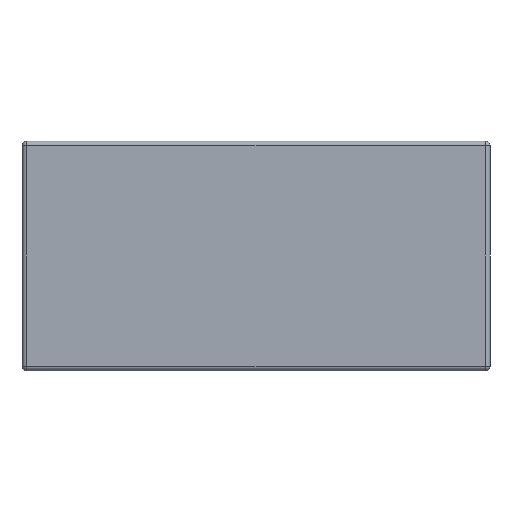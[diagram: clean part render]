
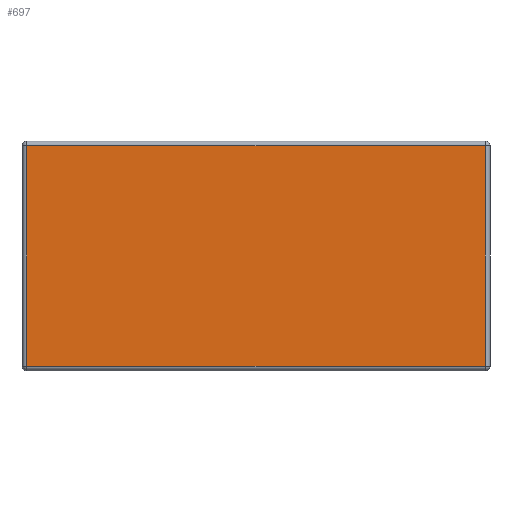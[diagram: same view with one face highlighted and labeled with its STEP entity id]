
A CAD part, front view. The second image highlights one B-rep face of the part: STEP entity #697.
In plain terms, the highlighted planar face has unit normal (0, -1, 0).
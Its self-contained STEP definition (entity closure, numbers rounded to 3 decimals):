
#30 = LINE ( 'NONE', #1537, #558 ) ;
#85 = CARTESIAN_POINT ( 'NONE',  ( 48.1, 0., 23.1 ) ) ;
#104 = PLANE ( 'NONE',  #106 ) ;
#106 = AXIS2_PLACEMENT_3D ( 'NONE', #1018, #1425, #236 ) ;
#137 = FACE_OUTER_BOUND ( 'NONE', #1343, .T. ) ;
#191 = CARTESIAN_POINT ( 'NONE',  ( 48.1, 0., -23.1 ) ) ;
#194 = CARTESIAN_POINT ( 'NONE',  ( -48.1, 0., -23.1 ) ) ;
#207 = ORIENTED_EDGE ( 'NONE', *, *, #1371, .T. ) ;
#236 = DIRECTION ( 'NONE',  ( 0., 0., -1. ) ) ;
#238 = LINE ( 'NONE', #1361, #731 ) ;
#242 = ORIENTED_EDGE ( 'NONE', *, *, #1375, .T. ) ;
#275 = VERTEX_POINT ( 'NONE', #458 ) ;
#325 = DIRECTION ( 'NONE',  ( 0., 0., 1. ) ) ;
#458 = CARTESIAN_POINT ( 'NONE',  ( -48.1, 0., 23.1 ) ) ;
#486 = CARTESIAN_POINT ( 'NONE',  ( -48.1, 0., 23.1 ) ) ;
#514 = ORIENTED_EDGE ( 'NONE', *, *, #1390, .T. ) ;
#524 = LINE ( 'NONE', #191, #991 ) ;
#532 = VERTEX_POINT ( 'NONE', #194 ) ;
#558 = VECTOR ( 'NONE', #646, 1000. ) ;
#613 = VECTOR ( 'NONE', #952, 1000. ) ;
#642 = DIRECTION ( 'NONE',  ( 1., 0., 0. ) ) ;
#646 = DIRECTION ( 'NONE',  ( 0., 0., -1. ) ) ;
#697 = ADVANCED_FACE ( 'NONE', ( #137 ), #104, .T. ) ;
#731 = VECTOR ( 'NONE', #325, 1000. ) ;
#901 = CARTESIAN_POINT ( 'NONE',  ( 48.1, 0., -23.1 ) ) ;
#952 = DIRECTION ( 'NONE',  ( -1., 0., 0. ) ) ;
#991 = VECTOR ( 'NONE', #642, 1000. ) ;
#1018 = CARTESIAN_POINT ( 'NONE',  ( 0., 0., 0. ) ) ;
#1019 = VERTEX_POINT ( 'NONE', #901 ) ;
#1032 = LINE ( 'NONE', #486, #613 ) ;
#1196 = VERTEX_POINT ( 'NONE', #85 ) ;
#1325 = ORIENTED_EDGE ( 'NONE', *, *, #1387, .T. ) ;
#1343 = EDGE_LOOP ( 'NONE', ( #207, #242, #1325, #514 ) ) ;
#1361 = CARTESIAN_POINT ( 'NONE',  ( 48.1, 0., 23.1 ) ) ;
#1371 = EDGE_CURVE ( 'NONE', #275, #532, #30, .T. ) ;
#1375 = EDGE_CURVE ( 'NONE', #532, #1019, #524, .T. ) ;
#1387 = EDGE_CURVE ( 'NONE', #1019, #1196, #238, .T. ) ;
#1390 = EDGE_CURVE ( 'NONE', #1196, #275, #1032, .T. ) ;
#1425 = DIRECTION ( 'NONE',  ( 0., -1., 0. ) ) ;
#1537 = CARTESIAN_POINT ( 'NONE',  ( -48.1, 0., -23.1 ) ) ;
